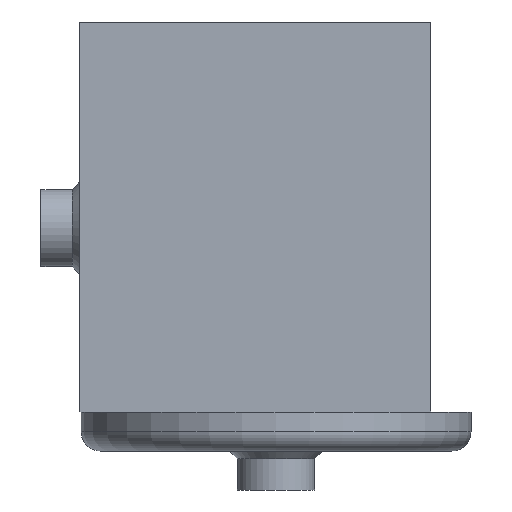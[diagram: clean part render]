
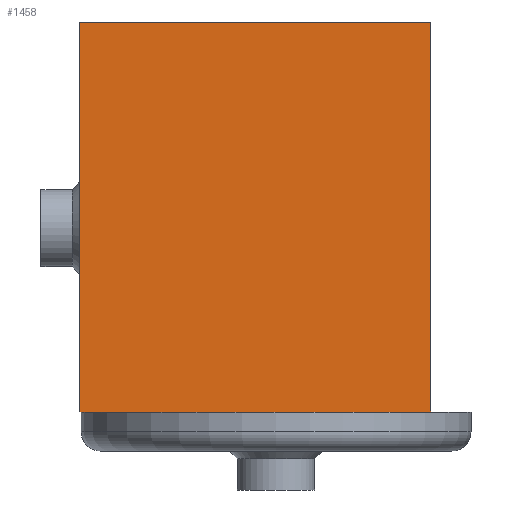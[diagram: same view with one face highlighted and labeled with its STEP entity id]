
A CAD part, front view. The second image highlights one B-rep face of the part: STEP entity #1458.
In plain terms, the highlighted planar face has unit normal (0.002, -1, 0).
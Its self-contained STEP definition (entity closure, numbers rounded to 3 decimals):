
#51=PLANE('',#1567);
#99=FACE_OUTER_BOUND('',#188,.T.);
#188=EDGE_LOOP('',(#1018,#1019,#1020,#1021,#1022));
#377=LINE('',#2242,#510);
#380=LINE('',#2247,#513);
#381=LINE('',#2249,#514);
#382=LINE('',#2251,#515);
#383=LINE('',#2252,#516);
#510=VECTOR('',#1755,10.);
#513=VECTOR('',#1760,10.);
#514=VECTOR('',#1761,10.);
#515=VECTOR('',#1762,10.);
#516=VECTOR('',#1763,10.);
#654=VERTEX_POINT('',#2239);
#655=VERTEX_POINT('',#2241);
#656=VERTEX_POINT('',#2246);
#657=VERTEX_POINT('',#2248);
#658=VERTEX_POINT('',#2250);
#797=EDGE_CURVE('',#655,#654,#377,.T.);
#800=EDGE_CURVE('',#656,#654,#380,.T.);
#801=EDGE_CURVE('',#657,#656,#381,.T.);
#802=EDGE_CURVE('',#658,#657,#382,.T.);
#803=EDGE_CURVE('',#655,#658,#383,.T.);
#1018=ORIENTED_EDGE('',*,*,#797,.T.);
#1019=ORIENTED_EDGE('',*,*,#800,.F.);
#1020=ORIENTED_EDGE('',*,*,#801,.F.);
#1021=ORIENTED_EDGE('',*,*,#802,.F.);
#1022=ORIENTED_EDGE('',*,*,#803,.F.);
#1458=ADVANCED_FACE('',(#99),#51,.T.);
#1567=AXIS2_PLACEMENT_3D('',#2245,#1758,#1759);
#1755=DIRECTION('',(0.,0.,1.));
#1758=DIRECTION('center_axis',(0.002,-1.,0.));
#1759=DIRECTION('ref_axis',(1.,0.002,0.));
#1760=DIRECTION('',(1.,0.002,0.));
#1761=DIRECTION('',(0.,0.,1.));
#1762=DIRECTION('',(-1.,-0.002,0.));
#1763=DIRECTION('',(-1.,-0.002,0.));
#2239=CARTESIAN_POINT('',(29.94,39.002,55.));
#2241=CARTESIAN_POINT('',(29.94,39.002,5.));
#2242=CARTESIAN_POINT('',(29.94,39.002,2.454));
#2245=CARTESIAN_POINT('Origin',(-15.06,38.896,5.));
#2246=CARTESIAN_POINT('',(-15.06,38.896,55.));
#2247=CARTESIAN_POINT('',(-0.71,38.93,55.));
#2248=CARTESIAN_POINT('',(-15.06,38.896,5.));
#2249=CARTESIAN_POINT('',(-15.06,38.896,5.));
#2250=CARTESIAN_POINT('',(-14.924,38.896,5.));
#2251=CARTESIAN_POINT('',(-0.71,38.93,5.));
#2252=CARTESIAN_POINT('',(-2.49,38.925,5.));
